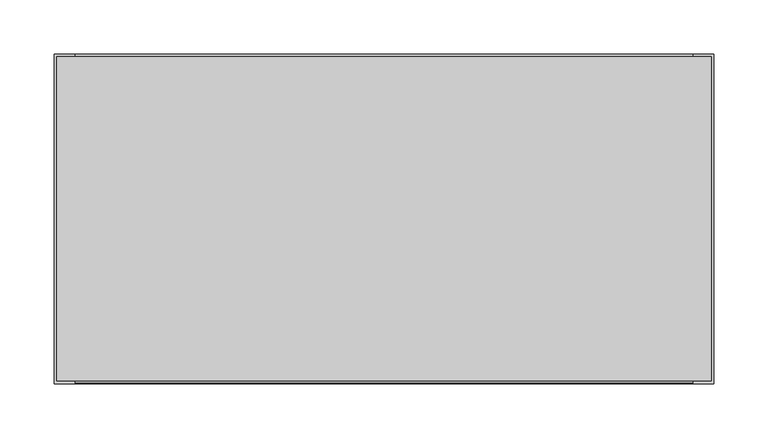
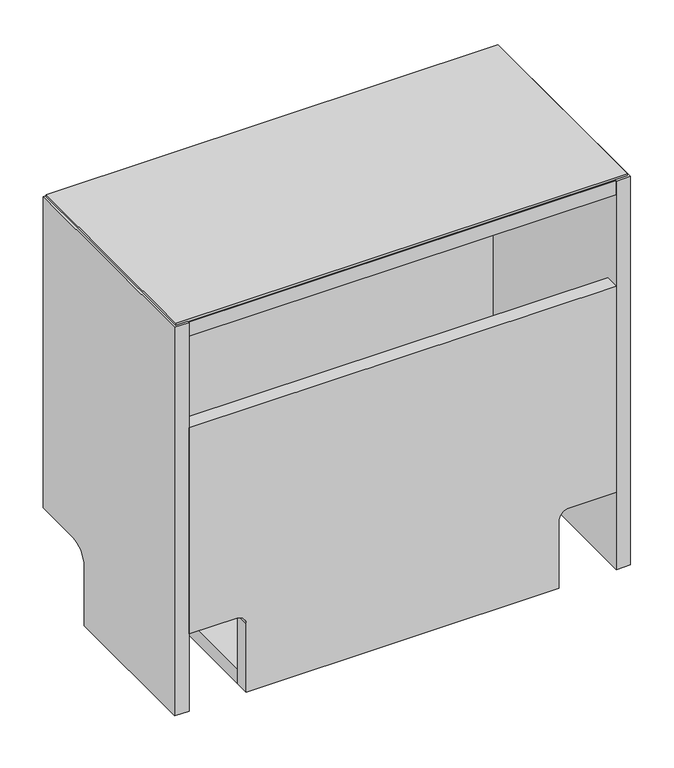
"""IFC4 building model written with IfcOpenShell, lengths in millimetres: furniture geometry, Geiger_GeigerOneCasegoods_LowStorageCorner : TFL 24Wx12Dx21.75H."""

from ifc_helpers import new_model, si_unit, point, frame, frame_2d, origin, place, context, project, spatial, polyline, circle_curve, ellipse_curve, trimmed, segment, composite_curve, outline, extrude, source, transform, mapped, element, save
from ifc_brep_helpers import plane_surface, cylinder_surface, revolved_surface, advanced_brep


def furniture_ae0d72f6(model_context):
    return source(origin(), model_context, "Body", "SolidModel", [
        extrude(outline(composite_curve([segment(polyline([(542.2, 590.6), (542.2, 19.0), (121.7, 19.0), (121.7, 82.8)]), True, "CONTINUOUS"), segment(trimmed(circle_curve(frame_2d((109.0, 82.8)), 12.7), [point((121.7, 82.8))], [point((109.0, 95.5))], True, "CARTESIAN"), True, "CONTINUOUS"), segment(polyline([(109.0, 95.5), (12.7, 95.5), (12.7, 514.1), (109.0, 514.1)]), True, "CONTINUOUS"), segment(trimmed(circle_curve(frame_2d((109.0, 526.8)), 12.7), [point((109.0, 514.1))], [point((121.7, 526.8))], True, "CARTESIAN"), True, "CONTINUOUS"), segment(polyline([(121.7, 526.8), (121.7, 590.6), (542.2, 590.6)]), True, "CONTINUOUS")], self_intersect=False)), frame((0.0, -19.5, 0.0), z_axis=(0.0, 1.0, 0.0), x_axis=(0.0, 0.0, 1.0)), (0.0, 0.0, 1.0), 19.0),
        extrude(outline(composite_curve([segment(polyline([(413.2, 590.6), (413.2, 19.0), (121.7, 19.0), (121.7, 82.8)]), True, "CONTINUOUS"), segment(trimmed(circle_curve(frame_2d((109.0, 82.8)), 12.7), [point((121.7, 82.8))], [point((109.0, 95.5))], True, "CARTESIAN"), True, "CONTINUOUS"), segment(polyline([(109.0, 95.5), (12.7, 95.5), (12.7, 514.1), (109.0, 514.1)]), True, "CONTINUOUS"), segment(trimmed(circle_curve(frame_2d((109.0, 526.8)), 12.7), [point((109.0, 514.1))], [point((121.7, 526.8))], True, "CARTESIAN"), True, "CONTINUOUS"), segment(polyline([(121.7, 526.8), (121.7, 590.6), (413.2, 590.6)]), True, "CONTINUOUS")], self_intersect=False)), frame((0.0, -304.8, 0.0), z_axis=(0.0, 1.0, 0.0), x_axis=(0.0, 0.0, 1.0)), (0.0, 0.0, 1.0), 19.5),
        extrude(outline(composite_curve([segment(trimmed(circle_curve(frame_2d((-69.6, 96.3)), 25.4), [point((-69.6, 121.7))], [point((-95.0, 96.3))], True, "CARTESIAN"), True, "CONTINUOUS"), segment(polyline([(-95.0, 96.3), (-95.0, 12.7), (-304.8, 12.7), (-304.8, 561.7), (0.0, 561.7), (0.0, 121.7), (-69.6, 121.7)]), True, "CONTINUOUS")], self_intersect=False)), frame((590.6, 0.0, 0.0), z_axis=(1.0, 0.0, 0.0), x_axis=(0.0, 1.0, 0.0)), (0.0, 0.0, 1.0), 19.0),
        extrude(outline(composite_curve([segment(polyline([(-304.8, 561.7), (0.0, 561.7), (0.0, 121.7), (-69.6, 121.7)]), True, "CONTINUOUS"), segment(trimmed(circle_curve(frame_2d((-69.6, 96.3)), 25.4), [point((-69.6, 121.7))], [point((-95.0, 96.3))], True, "CARTESIAN"), True, "CONTINUOUS"), segment(polyline([(-95.0, 96.3), (-95.0, 12.7), (-304.8, 12.7), (-304.8, 561.7)]), True, "CONTINUOUS")], self_intersect=False)), frame((0.0, 0.0, 0.0), z_axis=(1.0, 0.0, 0.0), x_axis=(0.0, 1.0, 0.0)), (0.0, 0.0, 1.0), 19.0),
        extrude(outline(polyline([(95.5, -19.5), (514.1, -19.5), (514.1, -285.3), (95.5, -285.3), (95.5, -19.5)])), frame((0.0, 0.0, 12.7), z_axis=(0.0, 0.0, 1.0), x_axis=(1.0, 0.0, 0.0)), (0.0, 0.0, 1.0), 19.5),
        extrude(outline(polyline([(607.06, -2.54), (607.06, -302.26), (2.54, -302.26), (2.54, -2.54), (607.06, -2.54)])), frame((0.0, 0.0, 561.7), z_axis=(0.0, 0.0, 1.0), x_axis=(1.0, 0.0, 0.0)), (0.0, 0.0, 1.0), 3.2766),
        extrude(outline(polyline([(19.0, 0.0), (590.6, 0.0), (590.6, -304.3), (19.0, -304.3), (19.0, 0.0)])), frame((0.0, 0.0, 542.2), z_axis=(0.0, 0.0, 1.0), x_axis=(1.0, 0.0, 0.0)), (0.0, 0.0, 1.0), 19.5),
        advanced_brep(
        [(157.0630156, -268.3697123, 0.0), (134.9478829, -268.3697123, 0.0), (146.0054493, -268.3697123, 0.0), (157.0630156, -268.3697123, 9.5), (134.9478829, -268.3697123, 9.5), (150.0719043, -268.3697123, 9.5), (141.9389943, -268.3697123, 9.5), (150.0719043, -268.3697123, 12.7), (141.9389943, -268.3697123, 12.7), (146.0054493, -268.3697123, 12.7)],
        [
            (0, 1, circle_curve(frame((146.0054493, -268.3697123, 0.0), z_axis=(0.0, 0.0, -1.0), x_axis=(-1.0, 0.0, 0.0)), 11.0575663)),
            (1, 2),
            (2, 0),
            (1, 0, circle_curve(frame((146.0054493, -268.3697123, 0.0), z_axis=(0.0, 0.0, -1.0), x_axis=(-1.0, 0.0, 0.0)), 11.0575663)),
            (0, 3, circle_curve(frame((157.0630156, -268.3697123, 4.75), z_axis=(0.0, -1.0, 0.0), x_axis=(1.0, 0.0, 0.0)), 4.75)),
            (3, 4, circle_curve(frame((146.0054493, -268.3697123, 9.5), z_axis=(0.0, 0.0, -1.0), x_axis=(-1.0, 0.0, 0.0)), 11.0575663)),
            (4, 1, circle_curve(frame((134.9478829, -268.3697123, 4.75), z_axis=(0.0, -1.0, 0.0), x_axis=(-1.0, 0.0, 0.0)), 4.75)),
            (4, 3, circle_curve(frame((146.0054493, -268.3697123, 9.5), z_axis=(0.0, 0.0, -1.0), x_axis=(-1.0, 0.0, 0.0)), 11.0575663)),
            (3, 5),
            (5, 6, circle_curve(frame((146.0054493, -268.3697123, 9.5), z_axis=(0.0, 0.0, -1.0), x_axis=(-1.0, 0.0, 0.0)), 4.066455)),
            (6, 4),
            (6, 5, circle_curve(frame((146.0054493, -268.3697123, 9.5), z_axis=(0.0, 0.0, -1.0), x_axis=(-1.0, 0.0, 0.0)), 4.066455)),
            (5, 7),
            (7, 8, circle_curve(frame((146.0054493, -268.3697123, 12.7), z_axis=(0.0, 0.0, -1.0), x_axis=(-1.0, 0.0, 0.0)), 4.066455)),
            (8, 6),
            (8, 7, circle_curve(frame((146.0054493, -268.3697123, 12.7), z_axis=(0.0, 0.0, -1.0), x_axis=(-1.0, 0.0, 0.0)), 4.066455)),
            (7, 9),
            (9, 8),
        ],
        [
            plane_surface(frame((146.0054493, -268.3697123, 0.0), z_axis=(0.0, 0.0, -1.0), x_axis=(-1.0, 0.0, 0.0))),
            revolved_surface(trimmed(ellipse_curve(frame((134.9478829, -268.3697123, 4.75), z_axis=(0.0, 1.0, 0.0), x_axis=(-1.0, 0.0, 0.0)), 4.75, 4.75), [point((134.9478829, -268.3697123, 0.0))], [point((134.9478829, -268.3697123, 9.5))], True, "CARTESIAN"), (146.0054493, -268.3697123, 0.0), (0.0, 0.0, 1.0)),
            plane_surface(frame((146.0054493, -268.3697123, 9.5), z_axis=(0.0, 0.0, 1.0), x_axis=(-1.0, 0.0, 0.0))),
            cylinder_surface(frame((146.0054493, -268.3697123, 0.0), z_axis=(0.0, 0.0, 1.0), x_axis=(-1.0, 0.0, 0.0)), 4.066455),
            plane_surface(frame((146.0054493, -268.3697123, 12.7), z_axis=(0.0, 0.0, 1.0), x_axis=(-1.0, 0.0, 0.0))),
        ],
        [
            (0, [[1, 2, 3]]),
            (0, [[-2, 4, -3]]),
            (1, [[-1, 5, 6, 7]]),
            (1, [[-4, -7, 8, -5]]),
            (2, [[-6, 9, 10, 11]]),
            (2, [[-8, -11, 12, -9]]),
            (3, [[-10, 13, 14, 15]]),
            (3, [[-12, -15, 16, -13]]),
            (4, [[-14, 17, 18]]),
            (4, [[-16, -18, -17]]),
        ],
    ),
        advanced_brep(
        [(157.0630156, -36.5292291, 0.0), (134.9478829, -36.5292291, 0.0), (146.0054493, -36.5292291, 0.0), (157.0630156, -36.5292291, 9.5), (134.9478829, -36.5292291, 9.5), (150.0719043, -36.5292291, 9.5), (141.9389943, -36.5292291, 9.5), (150.0719043, -36.5292291, 12.7), (141.9389943, -36.5292291, 12.7), (146.0054493, -36.5292291, 12.7)],
        [
            (0, 1, circle_curve(frame((146.0054493, -36.5292291, 0.0), z_axis=(0.0, 0.0, -1.0), x_axis=(-1.0, 0.0, 0.0)), 11.0575663)),
            (1, 2),
            (2, 0),
            (1, 0, circle_curve(frame((146.0054493, -36.5292291, 0.0), z_axis=(0.0, 0.0, -1.0), x_axis=(-1.0, 0.0, 0.0)), 11.0575663)),
            (0, 3, circle_curve(frame((157.0630156, -36.5292291, 4.75), z_axis=(0.0, -1.0, 0.0), x_axis=(1.0, 0.0, 0.0)), 4.75)),
            (3, 4, circle_curve(frame((146.0054493, -36.5292291, 9.5), z_axis=(0.0, 0.0, -1.0), x_axis=(-1.0, 0.0, 0.0)), 11.0575663)),
            (4, 1, circle_curve(frame((134.9478829, -36.5292291, 4.75), z_axis=(0.0, -1.0, 0.0), x_axis=(-1.0, 0.0, 0.0)), 4.75)),
            (4, 3, circle_curve(frame((146.0054493, -36.5292291, 9.5), z_axis=(0.0, 0.0, -1.0), x_axis=(-1.0, 0.0, 0.0)), 11.0575663)),
            (3, 5),
            (5, 6, circle_curve(frame((146.0054493, -36.5292291, 9.5), z_axis=(0.0, 0.0, -1.0), x_axis=(-1.0, 0.0, 0.0)), 4.066455)),
            (6, 4),
            (6, 5, circle_curve(frame((146.0054493, -36.5292291, 9.5), z_axis=(0.0, 0.0, -1.0), x_axis=(-1.0, 0.0, 0.0)), 4.066455)),
            (5, 7),
            (7, 8, circle_curve(frame((146.0054493, -36.5292291, 12.7), z_axis=(0.0, 0.0, -1.0), x_axis=(-1.0, 0.0, 0.0)), 4.066455)),
            (8, 6),
            (8, 7, circle_curve(frame((146.0054493, -36.5292291, 12.7), z_axis=(0.0, 0.0, -1.0), x_axis=(-1.0, 0.0, 0.0)), 4.066455)),
            (7, 9),
            (9, 8),
        ],
        [
            plane_surface(frame((146.0054493, -36.5292291, 0.0), z_axis=(0.0, 0.0, -1.0), x_axis=(-1.0, 0.0, 0.0))),
            revolved_surface(trimmed(ellipse_curve(frame((134.9478829, -36.5292291, 4.75), z_axis=(0.0, 1.0, 0.0), x_axis=(-1.0, 0.0, 0.0)), 4.75, 4.75), [point((134.9478829, -36.5292291, 0.0))], [point((134.9478829, -36.5292291, 9.5))], True, "CARTESIAN"), (146.0054493, -36.5292291, 0.0), (0.0, 0.0, 1.0)),
            plane_surface(frame((146.0054493, -36.5292291, 9.5), z_axis=(0.0, 0.0, 1.0), x_axis=(-1.0, 0.0, 0.0))),
            cylinder_surface(frame((146.0054493, -36.5292291, 0.0), z_axis=(0.0, 0.0, 1.0), x_axis=(-1.0, 0.0, 0.0)), 4.066455),
            plane_surface(frame((146.0054493, -36.5292291, 12.7), z_axis=(0.0, 0.0, 1.0), x_axis=(-1.0, 0.0, 0.0))),
        ],
        [
            (0, [[1, 2, 3]]),
            (0, [[-2, 4, -3]]),
            (1, [[-1, 5, 6, 7]]),
            (1, [[-4, -7, 8, -5]]),
            (2, [[-6, 9, 10, 11]]),
            (2, [[-8, -11, 12, -9]]),
            (3, [[-10, 13, 14, 15]]),
            (3, [[-12, -15, 16, -13]]),
            (4, [[-14, 17, 18]]),
            (4, [[-16, -18, -17]]),
        ],
    ),
        advanced_brep(
        [(462.3841215, -268.3697123, 0.0), (473.4416879, -268.3697123, 0.0), (451.3265552, -268.3697123, 0.0), (473.4416879, -268.3697123, 9.5), (451.3265552, -268.3697123, 9.5), (466.4505765, -268.3697123, 9.5), (458.3176666, -268.3697123, 9.5), (466.4505765, -268.3697123, 12.7), (458.3176666, -268.3697123, 12.7), (462.3841215, -268.3697123, 12.7)],
        [
            (0, 1),
            (1, 2, circle_curve(frame((462.3841215, -268.3697123, 0.0), z_axis=(0.0, 0.0, -1.0), x_axis=(1.0, 0.0, 0.0)), 11.0575663)),
            (2, 0),
            (2, 1, circle_curve(frame((462.3841215, -268.3697123, 0.0), z_axis=(0.0, 0.0, -1.0), x_axis=(1.0, 0.0, 0.0)), 11.0575663)),
            (1, 3, circle_curve(frame((473.4416879, -268.3697123, 4.75), z_axis=(0.0, -1.0, 0.0), x_axis=(-1.0, 0.0, 0.0)), 4.75)),
            (3, 4, circle_curve(frame((462.3841215, -268.3697123, 9.5), z_axis=(0.0, 0.0, -1.0), x_axis=(1.0, 0.0, 0.0)), 11.0575663)),
            (4, 2, circle_curve(frame((451.3265552, -268.3697123, 4.75), z_axis=(0.0, -1.0, 0.0), x_axis=(1.0, 0.0, 0.0)), 4.75)),
            (4, 3, circle_curve(frame((462.3841215, -268.3697123, 9.5), z_axis=(0.0, 0.0, -1.0), x_axis=(1.0, 0.0, 0.0)), 11.0575663)),
            (3, 5),
            (5, 6, circle_curve(frame((462.3841215, -268.3697123, 9.5), z_axis=(0.0, 0.0, -1.0), x_axis=(1.0, 0.0, 0.0)), 4.066455)),
            (6, 4),
            (6, 5, circle_curve(frame((462.3841215, -268.3697123, 9.5), z_axis=(0.0, 0.0, -1.0), x_axis=(1.0, 0.0, 0.0)), 4.066455)),
            (5, 7),
            (7, 8, circle_curve(frame((462.3841215, -268.3697123, 12.7), z_axis=(0.0, 0.0, -1.0), x_axis=(1.0, 0.0, 0.0)), 4.066455)),
            (8, 6),
            (8, 7, circle_curve(frame((462.3841215, -268.3697123, 12.7), z_axis=(0.0, 0.0, -1.0), x_axis=(1.0, 0.0, 0.0)), 4.066455)),
            (7, 9),
            (9, 8),
        ],
        [
            plane_surface(frame((462.3841215, -268.3697123, 0.0), z_axis=(0.0, 0.0, -1.0), x_axis=(1.0, 0.0, 0.0))),
            revolved_surface(trimmed(ellipse_curve(frame((473.4416879, -268.3697123, 4.75), z_axis=(0.0, 1.0, 0.0), x_axis=(-1.0, 0.0, 0.0)), 4.75, 4.75), [point((473.4416879, -268.3697123, 9.5))], [point((473.4416879, -268.3697123, 0.0))], True, "CARTESIAN"), (462.3841215, -268.3697123, 0.0), (0.0, 0.0, -1.0)),
            plane_surface(frame((462.3841215, -268.3697123, 9.5), z_axis=(0.0, 0.0, 1.0), x_axis=(1.0, 0.0, 0.0))),
            cylinder_surface(frame((462.3841215, -268.3697123, 0.0), z_axis=(0.0, 0.0, -1.0), x_axis=(1.0, 0.0, 0.0)), 4.066455),
            plane_surface(frame((462.3841215, -268.3697123, 12.7), z_axis=(0.0, 0.0, 1.0), x_axis=(1.0, 0.0, 0.0))),
        ],
        [
            (0, [[1, 2, 3]]),
            (0, [[-1, -3, 4]]),
            (1, [[-2, 5, 6, 7]]),
            (1, [[-4, -7, 8, -5]]),
            (2, [[-6, 9, 10, 11]]),
            (2, [[-8, -11, 12, -9]]),
            (3, [[-10, 13, 14, 15]]),
            (3, [[-12, -15, 16, -13]]),
            (4, [[-14, 17, 18]]),
            (4, [[-16, -18, -17]]),
        ],
    ),
        advanced_brep(
        [(462.3841215, -36.5292291, 0.0), (473.4416879, -36.5292291, 0.0), (451.3265552, -36.5292291, 0.0), (473.4416879, -36.5292291, 9.5), (451.3265552, -36.5292291, 9.5), (466.4505765, -36.5292291, 9.5), (458.3176666, -36.5292291, 9.5), (466.4505765, -36.5292291, 12.7), (458.3176666, -36.5292291, 12.7), (462.3841215, -36.5292291, 12.7)],
        [
            (0, 1),
            (1, 2, circle_curve(frame((462.3841215, -36.5292291, 0.0), z_axis=(0.0, 0.0, -1.0), x_axis=(1.0, 0.0, 0.0)), 11.0575663)),
            (2, 0),
            (2, 1, circle_curve(frame((462.3841215, -36.5292291, 0.0), z_axis=(0.0, 0.0, -1.0), x_axis=(1.0, 0.0, 0.0)), 11.0575663)),
            (1, 3, circle_curve(frame((473.4416879, -36.5292291, 4.75), z_axis=(0.0, -1.0, 0.0), x_axis=(-1.0, 0.0, 0.0)), 4.75)),
            (3, 4, circle_curve(frame((462.3841215, -36.5292291, 9.5), z_axis=(0.0, 0.0, -1.0), x_axis=(1.0, 0.0, 0.0)), 11.0575663)),
            (4, 2, circle_curve(frame((451.3265552, -36.5292291, 4.75), z_axis=(0.0, -1.0, 0.0), x_axis=(1.0, 0.0, 0.0)), 4.75)),
            (4, 3, circle_curve(frame((462.3841215, -36.5292291, 9.5), z_axis=(0.0, 0.0, -1.0), x_axis=(1.0, 0.0, 0.0)), 11.0575663)),
            (3, 5),
            (5, 6, circle_curve(frame((462.3841215, -36.5292291, 9.5), z_axis=(0.0, 0.0, -1.0), x_axis=(1.0, 0.0, 0.0)), 4.066455)),
            (6, 4),
            (6, 5, circle_curve(frame((462.3841215, -36.5292291, 9.5), z_axis=(0.0, 0.0, -1.0), x_axis=(1.0, 0.0, 0.0)), 4.066455)),
            (5, 7),
            (7, 8, circle_curve(frame((462.3841215, -36.5292291, 12.7), z_axis=(0.0, 0.0, -1.0), x_axis=(1.0, 0.0, 0.0)), 4.066455)),
            (8, 6),
            (8, 7, circle_curve(frame((462.3841215, -36.5292291, 12.7), z_axis=(0.0, 0.0, -1.0), x_axis=(1.0, 0.0, 0.0)), 4.066455)),
            (7, 9),
            (9, 8),
        ],
        [
            plane_surface(frame((462.3841215, -36.5292291, 0.0), z_axis=(0.0, 0.0, -1.0), x_axis=(1.0, 0.0, 0.0))),
            revolved_surface(trimmed(ellipse_curve(frame((473.4416879, -36.5292291, 4.75), z_axis=(0.0, 1.0, 0.0), x_axis=(-1.0, 0.0, 0.0)), 4.75, 4.75), [point((473.4416879, -36.5292291, 9.5))], [point((473.4416879, -36.5292291, 0.0))], True, "CARTESIAN"), (462.3841215, -36.5292291, 0.0), (0.0, 0.0, -1.0)),
            plane_surface(frame((462.3841215, -36.5292291, 9.5), z_axis=(0.0, 0.0, 1.0), x_axis=(1.0, 0.0, 0.0))),
            cylinder_surface(frame((462.3841215, -36.5292291, 0.0), z_axis=(0.0, 0.0, -1.0), x_axis=(1.0, 0.0, 0.0)), 4.066455),
            plane_surface(frame((462.3841215, -36.5292291, 12.7), z_axis=(0.0, 0.0, 1.0), x_axis=(1.0, 0.0, 0.0))),
        ],
        [
            (0, [[1, 2, 3]]),
            (0, [[-1, -3, 4]]),
            (1, [[-2, 5, 6, 7]]),
            (1, [[-4, -7, 8, -5]]),
            (2, [[-6, 9, 10, 11]]),
            (2, [[-8, -11, 12, -9]]),
            (3, [[-10, 13, 14, 15]]),
            (3, [[-12, -15, 16, -13]]),
            (4, [[-14, 17, 18]]),
            (4, [[-16, -18, -17]]),
        ],
    ),
    ])


if __name__ == "__main__":
    model = new_model("IFC4")
    model_context = context("Model", 3, world=origin())
    ifc_project = project(units=[si_unit("LENGTHUNIT", "METRE", prefix="MILLI")], contexts=[model_context])
    site = spatial("IfcSite", under=ifc_project)
    building = spatial("IfcBuilding", under=site)
    placement = place(None, origin())
    furniture_shape = furniture_ae0d72f6(model_context)
    element("IfcFurniture", 1, ObjectType="Geiger_GeigerOneCasegoods_LowStorageCorner : TFL 24Wx12Dx21.75H", at=placement, inside=building, context=model_context, shape_type="MappedRepresentation", body=[
        mapped(furniture_shape, transform((0.0, 0.0, 0.0), x_axis=(1.0, 0.0, 0.0), y_axis=(0.0, 1.0, 0.0), z_axis=(0.0, 0.0, 1.0))),
    ])
    save(model, "model.ifc")
